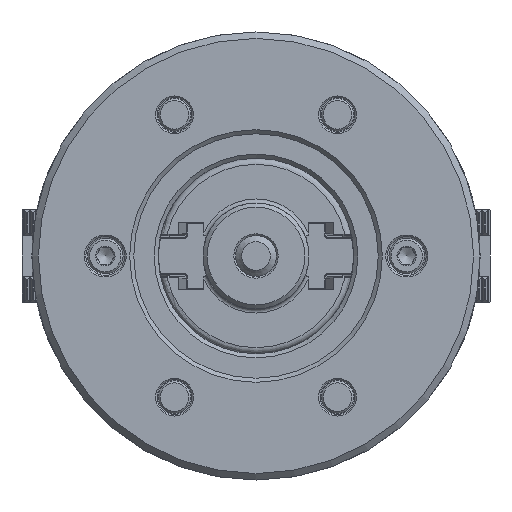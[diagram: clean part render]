
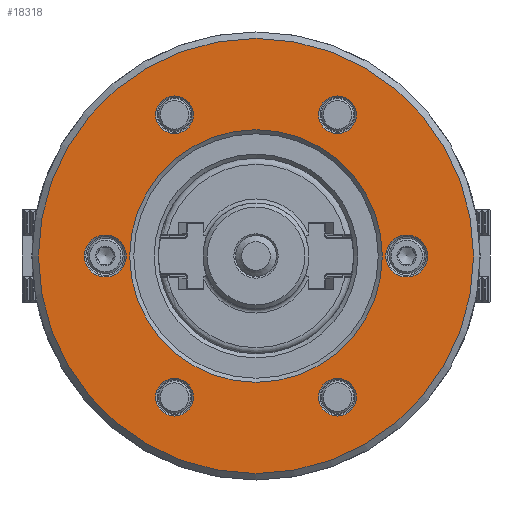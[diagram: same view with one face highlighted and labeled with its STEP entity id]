
A CAD part, left-side view. The second image highlights one B-rep face of the part: STEP entity #18318.
In plain terms, the highlighted planar face has unit normal (-1, 0, 0).
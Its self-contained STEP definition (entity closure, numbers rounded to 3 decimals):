
#1550 = EDGE_LOOP ( 'NONE', ( #44865 ) ) ;
#1560 = CARTESIAN_POINT ( 'NONE',  ( -52., -53.4, 0. ) ) ;
#1808 = VERTEX_POINT ( 'NONE', #23598 ) ;
#2109 = DIRECTION ( 'NONE',  ( 0., 0., 1. ) ) ;
#2218 = AXIS2_PLACEMENT_3D ( 'NONE', #28695, #43670, #64073 ) ;
#3156 = CARTESIAN_POINT ( 'NONE',  ( -52., 0., -53.4 ) ) ;
#3663 = EDGE_LOOP ( 'NONE', ( #43489 ) ) ;
#4565 = CIRCLE ( 'NONE', #17606, 31. ) ;
#4755 = CARTESIAN_POINT ( 'NONE',  ( -52., 20., -34.641 ) ) ;
#5333 = ORIENTED_EDGE ( 'NONE', *, *, #11325, .T. ) ;
#5667 = CIRCLE ( 'NONE', #43697, 4.65 ) ;
#7122 = EDGE_CURVE ( 'NONE', #29777, #29777, #28679, .T. ) ;
#7568 = DIRECTION ( 'NONE',  ( -1., 0., 0. ) ) ;
#9856 = EDGE_LOOP ( 'NONE', ( #53720 ) ) ;
#10616 = CARTESIAN_POINT ( 'NONE',  ( -52., -37., 5.15 ) ) ;
#10905 = DIRECTION ( 'NONE',  ( 1., 0., 0. ) ) ;
#10931 = CIRCLE ( 'NONE', #2218, 4.65 ) ;
#11325 = EDGE_CURVE ( 'NONE', #48112, #48112, #10931, .T. ) ;
#11893 = DIRECTION ( 'NONE',  ( 0., 0., -1. ) ) ;
#12448 = FACE_BOUND ( 'NONE', #63065, .T. ) ;
#14659 = CARTESIAN_POINT ( 'NONE',  ( -52., 37., 0. ) ) ;
#15918 = CARTESIAN_POINT ( 'NONE',  ( -52., 20., 34.641 ) ) ;
#15971 = CIRCLE ( 'NONE', #49689, 4.65 ) ;
#16032 = CARTESIAN_POINT ( 'NONE',  ( -52., 0., 0. ) ) ;
#17231 = DIRECTION ( 'NONE',  ( 0., 0., -1. ) ) ;
#17378 = ORIENTED_EDGE ( 'NONE', *, *, #55282, .T. ) ;
#17606 = AXIS2_PLACEMENT_3D ( 'NONE', #16032, #10905, #11893 ) ;
#18318 = ADVANCED_FACE ( 'NONE', ( #37640, #42422, #12448, #27101, #33201, #48872, #63180, #42757 ), #53969, .F. ) ;
#19163 = VERTEX_POINT ( 'NONE', #55892 ) ;
#20096 = EDGE_CURVE ( 'NONE', #1808, #1808, #5667, .T. ) ;
#20858 = CARTESIAN_POINT ( 'NONE',  ( -52., 37., 5.15 ) ) ;
#21374 = AXIS2_PLACEMENT_3D ( 'NONE', #44977, #65719, #65399 ) ;
#23598 = CARTESIAN_POINT ( 'NONE',  ( -52., 20., -39.291 ) ) ;
#24844 = EDGE_CURVE ( 'NONE', #48782, #48782, #53944, .T. ) ;
#25525 = DIRECTION ( 'NONE',  ( 1., 0., 0. ) ) ;
#27101 = FACE_BOUND ( 'NONE', #36026, .T. ) ;
#28679 = CIRCLE ( 'NONE', #63429, 4.65 ) ;
#28695 = CARTESIAN_POINT ( 'NONE',  ( -52., -20., -34.641 ) ) ;
#29777 = VERTEX_POINT ( 'NONE', #36235 ) ;
#30355 = DIRECTION ( 'NONE',  ( 0., 0., -1. ) ) ;
#31363 = VERTEX_POINT ( 'NONE', #10616 ) ;
#31434 = CARTESIAN_POINT ( 'NONE',  ( -52., -20., -39.291 ) ) ;
#32489 = EDGE_CURVE ( 'NONE', #19163, #19163, #4565, .T. ) ;
#33201 = FACE_BOUND ( 'NONE', #52941, .T. ) ;
#33755 = AXIS2_PLACEMENT_3D ( 'NONE', #14659, #61588, #51405 ) ;
#35471 = DIRECTION ( 'NONE',  ( 1., 0., 0. ) ) ;
#36026 = EDGE_LOOP ( 'NONE', ( #46441 ) ) ;
#36235 = CARTESIAN_POINT ( 'NONE',  ( -52., -20., 29.991 ) ) ;
#37640 = FACE_BOUND ( 'NONE', #1550, .T. ) ;
#40584 = CARTESIAN_POINT ( 'NONE',  ( -52., -20., 34.641 ) ) ;
#41534 = DIRECTION ( 'NONE',  ( 0., 0., -1. ) ) ;
#42422 = FACE_BOUND ( 'NONE', #59761, .T. ) ;
#42600 = CARTESIAN_POINT ( 'NONE',  ( -52., 20., 29.991 ) ) ;
#42757 = FACE_BOUND ( 'NONE', #46821, .T. ) ;
#43489 = ORIENTED_EDGE ( 'NONE', *, *, #24844, .F. ) ;
#43502 = ORIENTED_EDGE ( 'NONE', *, *, #20096, .T. ) ;
#43670 = DIRECTION ( 'NONE',  ( 1., 0., 0. ) ) ;
#43697 = AXIS2_PLACEMENT_3D ( 'NONE', #4755, #25525, #41534 ) ;
#44865 = ORIENTED_EDGE ( 'NONE', *, *, #51662, .F. ) ;
#44977 = CARTESIAN_POINT ( 'NONE',  ( -52., 0., 0. ) ) ;
#46441 = ORIENTED_EDGE ( 'NONE', *, *, #52610, .F. ) ;
#46821 = EDGE_LOOP ( 'NONE', ( #52397 ) ) ;
#47720 = CARTESIAN_POINT ( 'NONE',  ( -52., -37., 0. ) ) ;
#48112 = VERTEX_POINT ( 'NONE', #31434 ) ;
#48782 = VERTEX_POINT ( 'NONE', #3156 ) ;
#48872 = FACE_BOUND ( 'NONE', #9856, .T. ) ;
#49689 = AXIS2_PLACEMENT_3D ( 'NONE', #15918, #53306, #52306 ) ;
#51047 = CIRCLE ( 'NONE', #65148, 5.15 ) ;
#51405 = DIRECTION ( 'NONE',  ( 0., 0., 1. ) ) ;
#51662 = EDGE_CURVE ( 'NONE', #31363, #31363, #51047, .T. ) ;
#52306 = DIRECTION ( 'NONE',  ( 0., 0., -1. ) ) ;
#52397 = ORIENTED_EDGE ( 'NONE', *, *, #32489, .T. ) ;
#52610 = EDGE_CURVE ( 'NONE', #58219, #58219, #54395, .T. ) ;
#52793 = VERTEX_POINT ( 'NONE', #42600 ) ;
#52941 = EDGE_LOOP ( 'NONE', ( #5333 ) ) ;
#53294 = DIRECTION ( 'NONE',  ( 1., 0., 0. ) ) ;
#53306 = DIRECTION ( 'NONE',  ( 1., 0., 0. ) ) ;
#53720 = ORIENTED_EDGE ( 'NONE', *, *, #7122, .T. ) ;
#53944 = CIRCLE ( 'NONE', #21374, 53.4 ) ;
#53969 = PLANE ( 'NONE',  #63825 ) ;
#54395 = CIRCLE ( 'NONE', #33755, 5.15 ) ;
#55282 = EDGE_CURVE ( 'NONE', #52793, #52793, #15971, .T. ) ;
#55892 = CARTESIAN_POINT ( 'NONE',  ( -52., 0., -31. ) ) ;
#58219 = VERTEX_POINT ( 'NONE', #20858 ) ;
#59761 = EDGE_LOOP ( 'NONE', ( #43502 ) ) ;
#61588 = DIRECTION ( 'NONE',  ( -1., 0., 0. ) ) ;
#63065 = EDGE_LOOP ( 'NONE', ( #17378 ) ) ;
#63180 = FACE_OUTER_BOUND ( 'NONE', #3663, .T. ) ;
#63429 = AXIS2_PLACEMENT_3D ( 'NONE', #40584, #35471, #30355 ) ;
#63825 = AXIS2_PLACEMENT_3D ( 'NONE', #1560, #53294, #17231 ) ;
#64073 = DIRECTION ( 'NONE',  ( 0., 0., -1. ) ) ;
#65148 = AXIS2_PLACEMENT_3D ( 'NONE', #47720, #7568, #2109 ) ;
#65399 = DIRECTION ( 'NONE',  ( 0., 0., -1. ) ) ;
#65719 = DIRECTION ( 'NONE',  ( 1., 0., 0. ) ) ;
